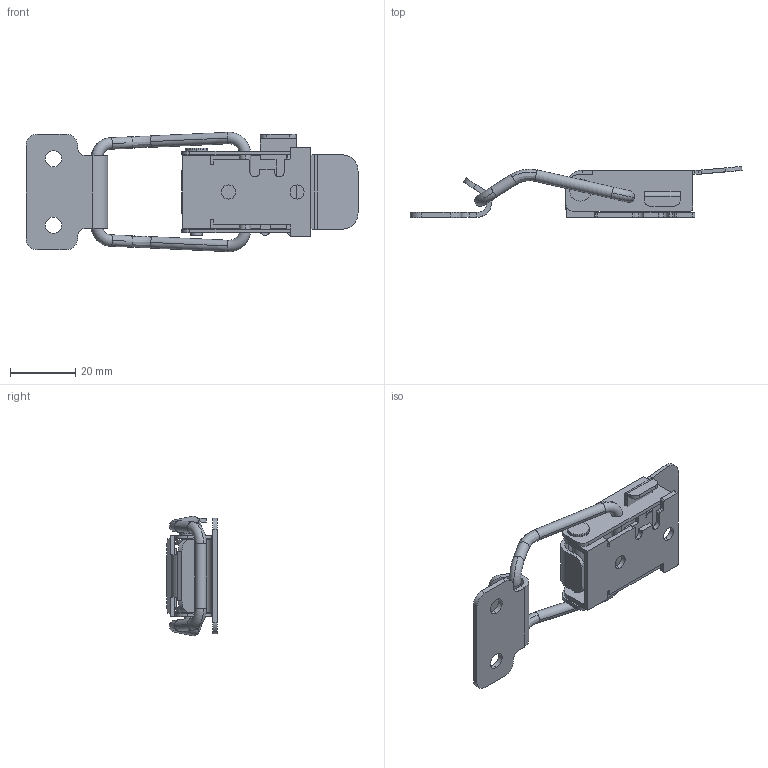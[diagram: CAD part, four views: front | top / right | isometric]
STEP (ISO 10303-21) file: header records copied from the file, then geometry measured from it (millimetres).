
FILE_DESCRIPTION (( 'STEP AP214' ), '1' );
FILE_NAME ('TS-102-SS.STEP', '2022-04-30T03:06:04', ( 'Owner' ), ( '' ), 'SwSTEP 2.0', 'SolidWorks 2019', '' );
FILE_SCHEMA (( 'AUTOMOTIVE_DESIGN' ));
Length unit declared in the file: millimetre
Products named in the file (1): TS-102-SS
Bounding box: 101.65 x 15.58 x 36.53 mm (x, y, z)
Volume: 7640.6 mm3; surface area: 11822.3 mm2
Topology: 5 solids, 5 shells, 221 faces, 577 edges, 370 vertices
Faces by surface type: plane 125, cylinder 78, torus 10, sphere 4, bspline 4
Entity records: 7507 total; most frequent: CARTESIAN_POINT 1839, DIRECTION 1205, ORIENTED_EDGE 1154, EDGE_CURVE 577, AXIS2_PLACEMENT_3D 418, VERTEX_POINT 370, LINE 369, VECTOR 369
